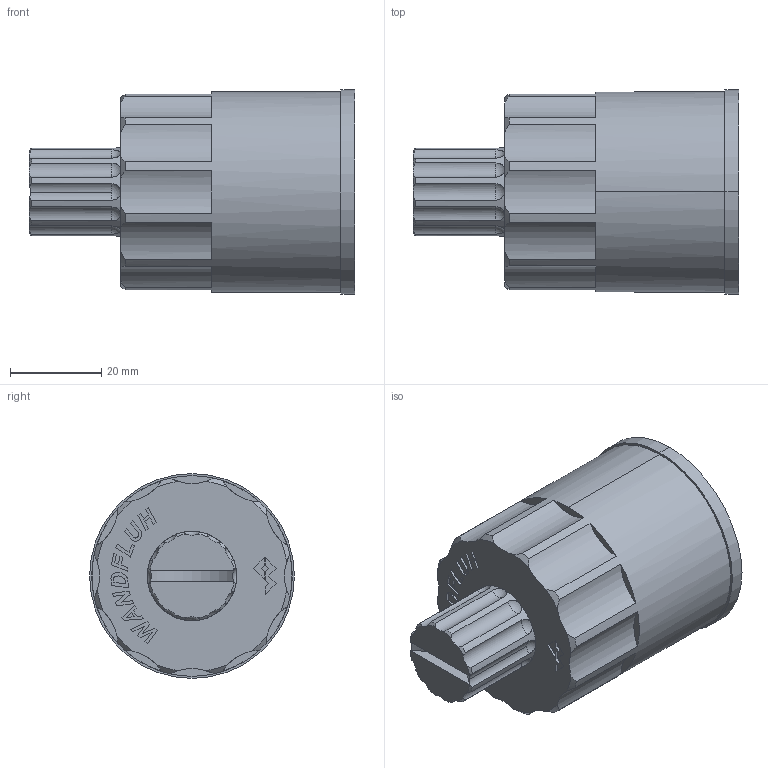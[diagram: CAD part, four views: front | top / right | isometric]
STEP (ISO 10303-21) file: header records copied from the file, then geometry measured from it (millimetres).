
FILE_DESCRIPTION (( 'STEP AP214' ), '1' );
FILE_NAME ('HS1.STEP', '2015-10-06T13:39:26', ( '' ), ( '' ), 'SwSTEP 2.0', 'SolidWorks 2014', '' );
FILE_SCHEMA (( 'AUTOMOTIVE_DESIGN' ));
Length unit declared in the file: millimetre
Products named in the file (2): HS1
Bounding box: 71.4 x 45 x 45 mm (x, y, z)
Volume: 52138.8 mm3; surface area: 16211 mm2
Topology: 2 solids, 3 shells, 261 faces, 702 edges, 456 vertices
Faces by surface type: plane 127, cylinder 68, cone 32, sphere 16, bspline 16, torus 2
Entity records: 12100 total; most frequent: CARTESIAN_POINT 2804, ORIENTED_EDGE 1378, DIRECTION 1257, EDGE_CURVE 689, VERTEX_POINT 451, AXIS2_PLACEMENT_3D 442, LINE 373, VECTOR 373
